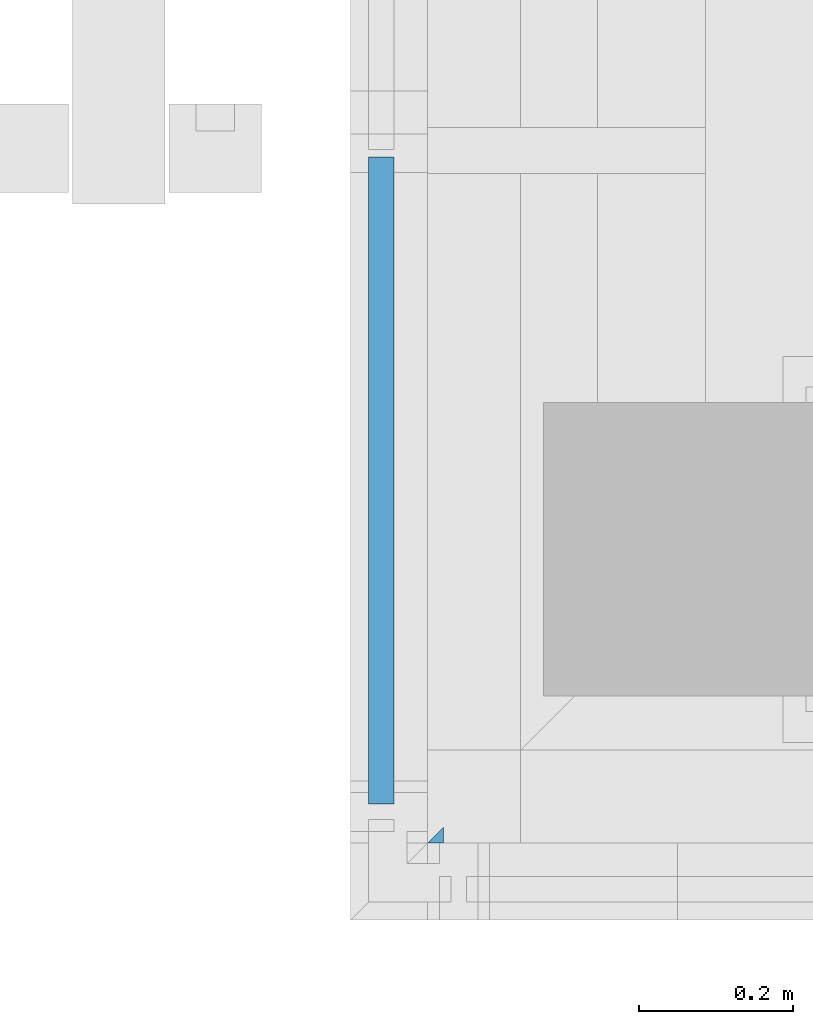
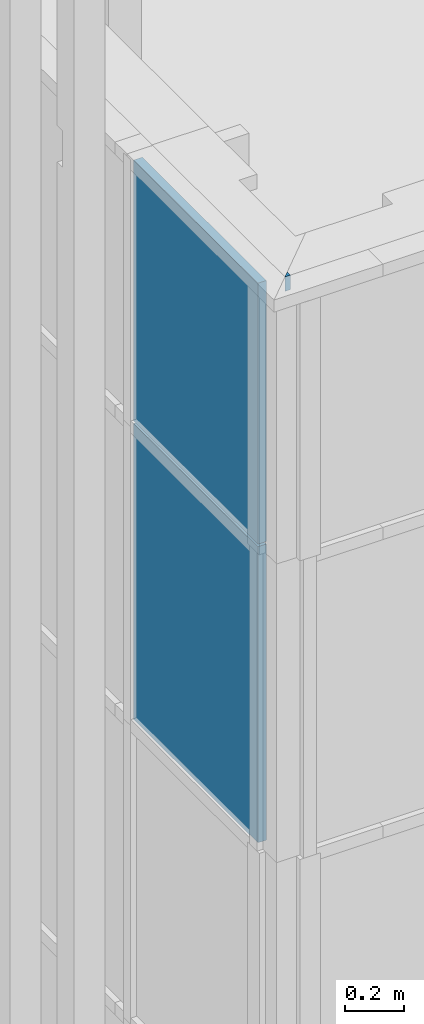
# One storey, part 103 of 260: 2 plates, 1 member, 2 elements without a shape of their own.
"""IFC2X3 building model written with IfcOpenShell, lengths in millimetres."""

from ifc_helpers import new_model, entity, si_unit, converted_unit, derived_unit, money_unit, direction, frame, origin_with_axes, place, context, subcontext, project, spatial, faceted_brep, material, type_object, element, aggregate, save


model = new_model("IFC2X3")

# Units and contexts
model_context = context("Model", 3, precision=0.01, world=origin_with_axes(), true_north=direction((0.0, 1.0)))
body_context = subcontext(model_context, "Body", "Model", "MODEL_VIEW")
ifc_project = project(units=[si_unit("LENGTHUNIT", "METRE", prefix="MILLI"), si_unit("AREAUNIT", "SQUARE_METRE"), si_unit("VOLUMEUNIT", "CUBIC_METRE"), converted_unit("PLANEANGLEUNIT", "DEGREE", entity("IfcPlaneAngleMeasure", 0.0174532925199), si_unit("PLANEANGLEUNIT", "RADIAN"), dimensions=[0, 0, 0, 0, 0, 0, 0]), money_unit("EUR"), converted_unit("TIMEUNIT", "Year", entity("IfcTimeMeasure", 31556926.0), si_unit("TIMEUNIT", "SECOND"), dimensions=[0, 0, 1, 0, 0, 0, 0]), si_unit("MASSUNIT", "GRAM", prefix="KILO"), si_unit("THERMODYNAMICTEMPERATUREUNIT", "DEGREE_CELSIUS"), si_unit("LUMINOUSINTENSITYUNIT", "LUMEN"), si_unit("ENERGYUNIT", "JOULE", prefix="MEGA"), derived_unit("THERMALCONDUCTANCEUNIT", [(si_unit("POWERUNIT", "WATT"), 1), (si_unit("LENGTHUNIT", "METRE"), -1), (si_unit("THERMODYNAMICTEMPERATUREUNIT", "KELVIN"), -1)]), derived_unit("SPECIFICHEATCAPACITYUNIT", [(si_unit("ENERGYUNIT", "JOULE"), 1), (si_unit("MASSUNIT", "GRAM", prefix="KILO"), -1), (si_unit("THERMODYNAMICTEMPERATUREUNIT", "KELVIN"), -1)]), derived_unit("MASSDENSITYUNIT", [(si_unit("MASSUNIT", "GRAM", prefix="KILO"), 1), (si_unit("VOLUMEUNIT", "CUBIC_METRE"), -1)])], contexts=[model_context])

# Site, building, storey
site_placement = place(None, origin_with_axes())
site = spatial("IfcSite", under=ifc_project, at=site_placement, Name="Kolde pst 67a", CompositionType="ELEMENT")
building_placement = place(site_placement, origin_with_axes())
building = spatial("IfcBuilding", under=site, at=building_placement, Name="Riigigümnaasium", CompositionType="ELEMENT")
storey_placement = place(building_placement, origin_with_axes())
storey = spatial("IfcBuildingStorey", under=building, at=storey_placement, Name="1. korrus", CompositionType="ELEMENT", Elevation=0.0)

# Curtain wall, member
curtain_wall_type = type_object("IfcCurtainWallType", Name="Curtain Wall Type", PredefinedType="NOTDEFINED")
curtain_wall_1_placement = place(storey_placement, frame((47889.9854796, 7778.28071079, -0.000681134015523), z_axis=(0.0, 0.0, 1.0), x_axis=(1.0, 0.0, 0.0)))
curtain_wall_1 = element("IfcCurtainWall", 1, at=curtain_wall_1_placement, inside=storey, type_object=curtain_wall_type, Name="Klaasfassaadi puitkarkass")
ifc_material_1 = material(Name="_KANDETARIND - liimpuit vastavalt EK osale")
member_type = type_object("IfcMemberType", Name="Boundary Frame 60 x 360", PredefinedType="MEMBER")
member_placement = place(curtain_wall_1_placement, frame((4.81776396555e-07, -448.280635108, 7259.99957922), z_axis=(1.0, -2.61927569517e-07, 0.0), x_axis=(0.0, 0.0, -1.0)))
member = element("IfcMember", 2, at=member_placement, type_object=member_type, material=ifc_material_1, Name="RF RAAM SERV-868", ObjectType="MEMBER", context=body_context, shape_type="Brep", body=[
    faceted_brep([(60.0, 0.0, 0.0), (60.0, 20.6572814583, 20.6572760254), (60.0, 0.0, 20.6572760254), (0.0, 0.0, 0.0), (0.0, 20.6572814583, 20.6572760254), (0.0, 0.0, 20.6572760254)], [[[0, 1, 2]], [[1, 0, 3, 4]], [[1, 4, 5, 2]], [[3, 0, 2, 5]], [[4, 3, 5]]]),
])
aggregate(curtain_wall_1, [member])

# Curtain wall, plates
curtain_wall_2_placement = place(storey_placement, frame((47829.9854655, 8727.77020058, -0.000749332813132), z_axis=(0.0, 0.0, 1.0), x_axis=(1.0, 0.0, 0.0)))
curtain_wall_2 = element("IfcCurtainWall", 3, at=curtain_wall_2_placement, inside=storey, type_object=curtain_wall_type, Name="KLAASFASSAAD")
ifc_material_2 = material(Name="_KLAAS - kirgas")
plate_type_1 = type_object("IfcPlateType", Name="Main Panel 838 x 1075 x 33", PredefinedType="NOTDEFINED")
plate_1_placement = place(curtain_wall_2_placement, frame((8.07688138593e-07, -886.006131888, 6814.00025383), z_axis=(0.0, 0.0, 1.0), x_axis=(9.11614519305e-10, -1.0, 0.0)))
plate_1 = element("IfcPlate", 4, at=plate_1_placement, type_object=plate_type_1, material=ifc_material_2, Name="RF PANEEL PEAMINE-046", context=body_context, shape_type="Brep", body=[
    faceted_brep([(-376.175985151, 16.5, 415.999683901), (-376.175985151, -16.5, 415.999683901), (461.763975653, -16.5, 415.999683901), (461.763975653, 16.5, 415.999683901), (-376.175968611, 16.5, -658.999506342), (-376.175968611, -16.5, -658.999506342), (461.763975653, -16.5, -658.999506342), (461.763975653, 16.5, -658.999506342)], [[[0, 1, 2, 3]], [[4, 5, 1, 0]], [[1, 5, 6, 2]], [[3, 2, 6, 7]], [[0, 3, 7, 4]], [[7, 6, 5, 4]]]),
])
plate_type_2 = type_object("IfcPlateType", Name="Main Panel 838 x 1220 x 33", PredefinedType="NOTDEFINED")
plate_2_placement = place(curtain_wall_2_placement, frame((8.9455198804e-07, -981.300127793, 5535.00074933), z_axis=(0.0, 0.0, 1.0), x_axis=(9.11614519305e-10, -1.0, 0.0)))
plate_2 = element("IfcPlate", 5, at=plate_2_placement, type_object=plate_type_2, material=ifc_material_2, Name="RF PANEEL PEAMINE-043", context=body_context, shape_type="Brep", body=[
    faceted_brep([(-471.469965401, 16.5, 610.0), (-471.469965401, -16.5, 610.0), (366.469972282, -16.5, 610.0), (366.469972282, 16.5, 610.0), (-471.469965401, 16.5, -610.0), (-471.469965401, -16.5, -610.0), (366.469972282, -16.5, -610.0), (366.469972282, 16.5, -610.0)], [[[0, 1, 2, 3]], [[4, 5, 1, 0]], [[1, 5, 6, 2]], [[3, 2, 6, 7]], [[0, 3, 7, 4]], [[7, 6, 5, 4]]]),
])
aggregate(curtain_wall_2, [plate_1, plate_2])

save(model, "model.ifc")
